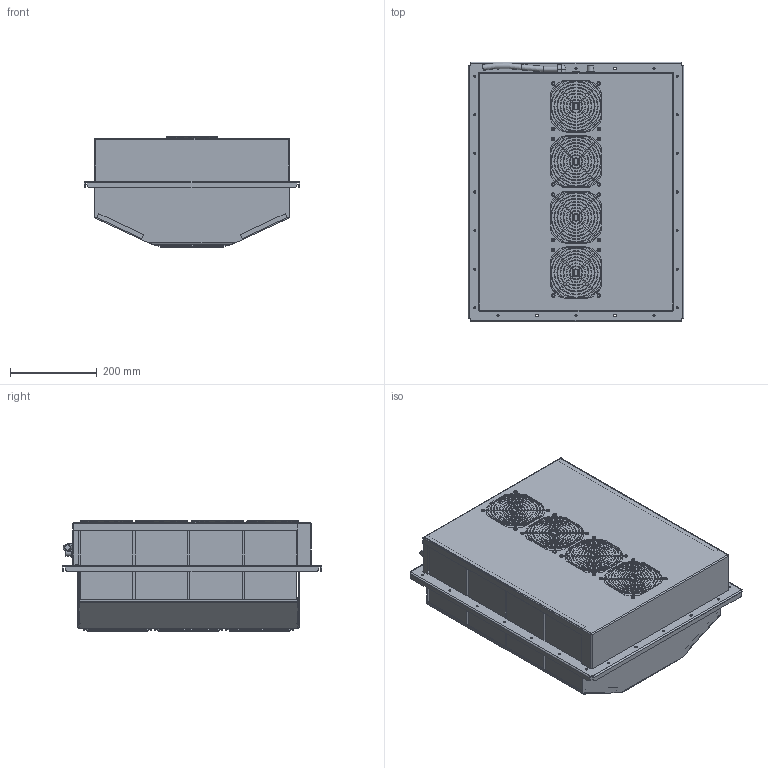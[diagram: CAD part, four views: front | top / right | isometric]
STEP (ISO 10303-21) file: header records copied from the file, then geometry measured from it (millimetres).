
FILE_DESCRIPTION(/* description */ ('Alibre Inc.'),/* implementation_level */ '2;1');
FILE_NAME(/* name */ 'export0',/* time_stamp */ '2018-09-26T09:15:19-04:00',/* author */ (''),/* organization */ (''),/* preprocessor_version */ 'ST-DEVELOPER v17',/* originating_system */ 'Alibre',/* authorisation */ '');
FILE_SCHEMA (('CONFIG_CONTROL_DESIGN'));
Length unit declared in the file: inch
Products named in the file (1): ID_1
Bounding box: 495.96 x 596.9 x 253.97 mm (x, y, z)
Volume: 45055 mm3; surface area: 1828318.1 mm2
Topology: 72 solids, 73 shells, 1426 faces, 3587 edges, 2209 vertices
Faces by surface type: torus 661, plane 411, cylinder 351, sphere 2, cone 1
Full cylindrical faces by diameter (mm): 1.778 x16, 3.962 x7, 4.762 x16, 4.763 x19, 5.334 x16, 5.563 x12, 12.7 x1, 18.288 x1
Entity records: 42299 total; most frequent: CARTESIAN_POINT 9109, ORIENTED_EDGE 6870, DIRECTION 6456, EDGE_CURVE 3333, AXIS2_PLACEMENT_3D 3125, VERTEX_POINT 2232, FACE_BOUND 2009, CIRCLE 1785
